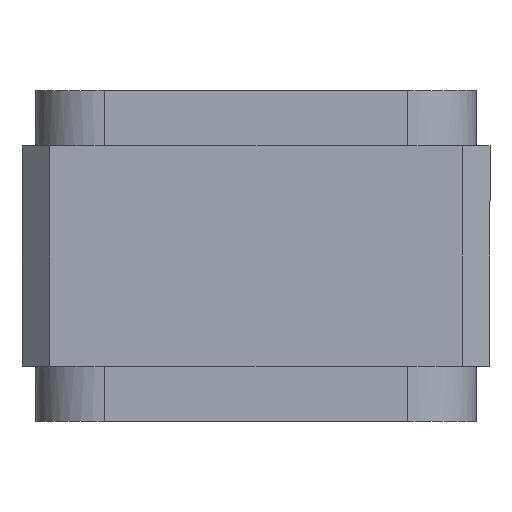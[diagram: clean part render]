
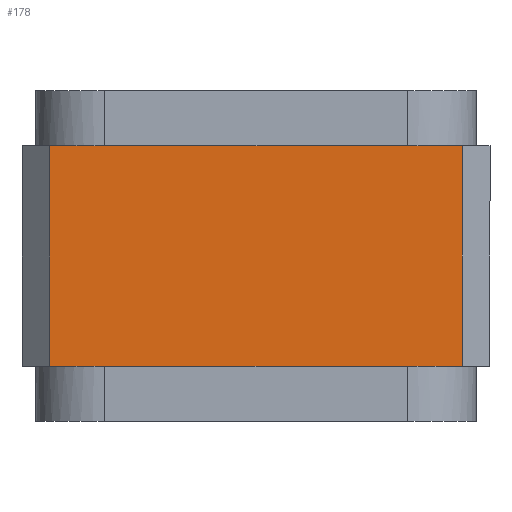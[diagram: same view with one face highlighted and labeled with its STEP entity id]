
A CAD part, front view. The second image highlights one B-rep face of the part: STEP entity #178.
In plain terms, the highlighted planar face has unit normal (0, -1, 0).
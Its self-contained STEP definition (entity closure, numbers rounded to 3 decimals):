
#22 = VECTOR ( 'NONE', #371, 1000. ) ;
#33 = CARTESIAN_POINT ( 'NONE',  ( 0., 0., -80. ) ) ;
#37 = CARTESIAN_POINT ( 'NONE',  ( 10., 0., -80. ) ) ;
#53 = DIRECTION ( 'NONE',  ( 1., 0., 0. ) ) ;
#77 = CARTESIAN_POINT ( 'NONE',  ( 10., 0., 0. ) ) ;
#87 = EDGE_CURVE ( 'NONE', #107, #637, #291, .T. ) ;
#107 = VERTEX_POINT ( 'NONE', #692 ) ;
#146 = LINE ( 'NONE', #77, #222 ) ;
#178 = ADVANCED_FACE ( 'NONE', ( #636 ), #605, .F. ) ;
#184 = ORIENTED_EDGE ( 'NONE', *, *, #421, .T. ) ;
#190 = ORIENTED_EDGE ( 'NONE', *, *, #621, .F. ) ;
#207 = CARTESIAN_POINT ( 'NONE',  ( 160., 0., 243.028 ) ) ;
#222 = VECTOR ( 'NONE', #677, 1000. ) ;
#231 = CARTESIAN_POINT ( 'NONE',  ( 0., 0., 0. ) ) ;
#276 = CARTESIAN_POINT ( 'NONE',  ( 0., 0., 0. ) ) ;
#291 = LINE ( 'NONE', #276, #671 ) ;
#356 = AXIS2_PLACEMENT_3D ( 'NONE', #231, #607, #604 ) ;
#371 = DIRECTION ( 'NONE',  ( 1., 0., 0. ) ) ;
#420 = DIRECTION ( 'NONE',  ( 0., 0., -1. ) ) ;
#421 = EDGE_CURVE ( 'NONE', #107, #560, #146, .T. ) ;
#460 = EDGE_LOOP ( 'NONE', ( #184, #523, #190, #609 ) ) ;
#474 = CARTESIAN_POINT ( 'NONE',  ( 160., 0., 0. ) ) ;
#485 = CARTESIAN_POINT ( 'NONE',  ( 160., 0., -80. ) ) ;
#523 = ORIENTED_EDGE ( 'NONE', *, *, #645, .T. ) ;
#524 = LINE ( 'NONE', #207, #588 ) ;
#543 = LINE ( 'NONE', #33, #22 ) ;
#560 = VERTEX_POINT ( 'NONE', #37 ) ;
#588 = VECTOR ( 'NONE', #420, 1000. ) ;
#604 = DIRECTION ( 'NONE',  ( 0., 0., 1. ) ) ;
#605 = PLANE ( 'NONE',  #356 ) ;
#607 = DIRECTION ( 'NONE',  ( 0., 1., 0. ) ) ;
#609 = ORIENTED_EDGE ( 'NONE', *, *, #87, .F. ) ;
#621 = EDGE_CURVE ( 'NONE', #637, #698, #524, .T. ) ;
#636 = FACE_OUTER_BOUND ( 'NONE', #460, .T. ) ;
#637 = VERTEX_POINT ( 'NONE', #474 ) ;
#645 = EDGE_CURVE ( 'NONE', #560, #698, #543, .T. ) ;
#671 = VECTOR ( 'NONE', #53, 1000. ) ;
#677 = DIRECTION ( 'NONE',  ( 0., 0., -1. ) ) ;
#692 = CARTESIAN_POINT ( 'NONE',  ( 10., 0., 0. ) ) ;
#698 = VERTEX_POINT ( 'NONE', #485 ) ;
